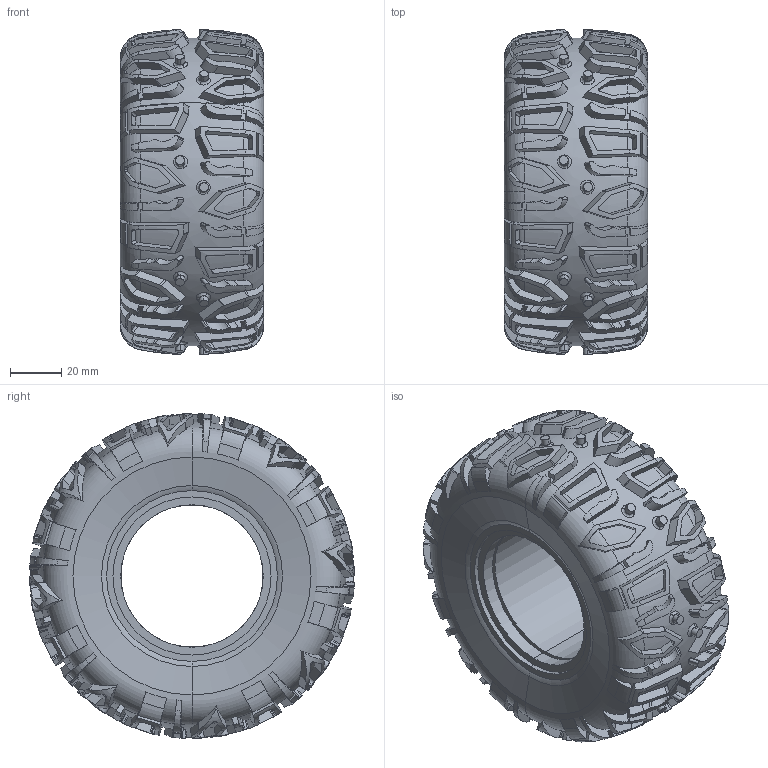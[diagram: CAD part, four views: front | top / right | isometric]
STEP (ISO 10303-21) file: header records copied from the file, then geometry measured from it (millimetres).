
FILE_DESCRIPTION (( 'STEP AP203' ), '1' );
FILE_NAME ('3609-0001-0002 Assembly.STEP', '2018-08-14T03:48:22', ( '' ), ( '' ), 'SwSTEP 2.0', 'SolidWorks 2016', '' );
FILE_SCHEMA (( 'CONFIG_CONTROL_DESIGN' ));
Length unit declared in the file: millimetre
Products named in the file (3): 3609-0001-0002 Foam; 3609-0001-0002 Assembly; 3609-0001-0002
Assembly tree (2 placements, depth 2):
  3609-0001-0002 Assembly
    3609-0001-0002 Foam
    3609-0001-0002
Bounding box: 56 x 126.89 x 126.89 mm (x, y, z)
Volume: 463239.7 mm3; surface area: 132446.2 mm2
Topology: 2 solids, 2 shells, 1386 faces, 4026 edges, 2684 vertices
Faces by surface type: plane 572, cylinder 458, torus 256, cone 68, bspline 32
Entity records: 59757 total; most frequent: CARTESIAN_POINT 27551, ORIENTED_EDGE 8052, DIRECTION 4652, EDGE_CURVE 4026, VERTEX_POINT 2684, B_SPLINE_CURVE_WITH_KNOTS 2516, AXIS2_PLACEMENT_3D 1783, EDGE_LOOP 1430
